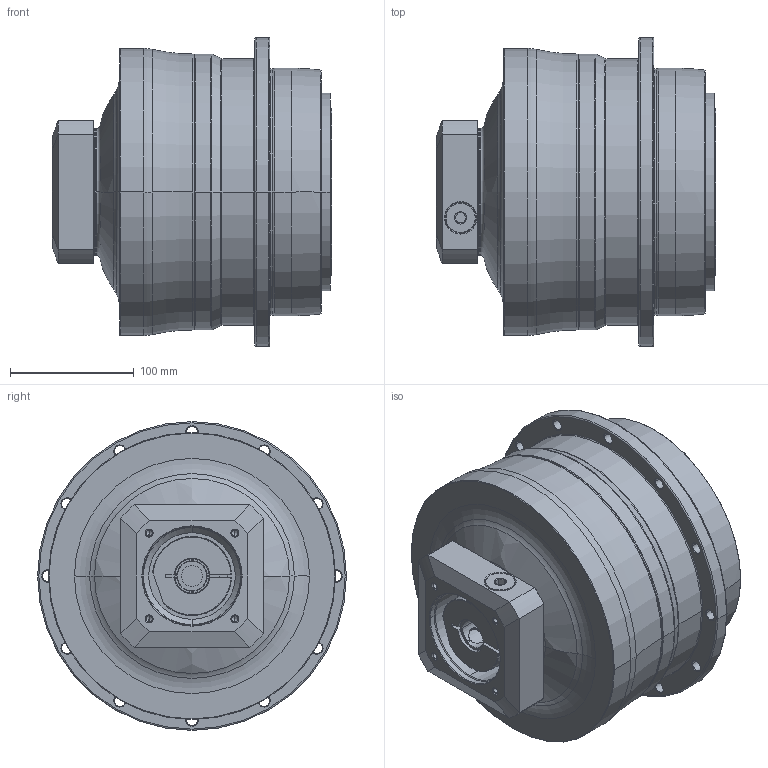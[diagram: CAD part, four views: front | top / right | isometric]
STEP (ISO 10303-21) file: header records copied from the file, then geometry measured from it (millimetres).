
FILE_DESCRIPTION((''),'2;1');
FILE_NAME('AH200_2ST_24-P0409500101_ASM','2016-08-08T',('d01943'),(''),'PRO/ENGINEER BY PARAMETRIC TECHNOLOGY CORPORATION, 2008410','PRO/ENGINEER BY PARAMETRIC TECHNOLOGY CORPORATION, 2008410','');
FILE_SCHEMA(('CONFIG_CONTROL_DESIGN'));
Length unit declared in the file: millimetre
Products named in the file (8): P0278600003; P0359600002; P1317600001; P0409500101; P0503500010; P0912500001; 21711418017; AH200_2ST_24-P0409500101_ASM
Assembly tree (7 placements, depth 2):
  AH200_2ST_24-P0409500101_ASM
    P0278600003
    P0359600002
    P1317600001
    P0409500101
    P0503500010
    P0912500001
    21711418017
Bounding box: 225.5 x 249.5 x 249.5 mm (x, y, z)
Volume: 6892584.9 mm3; surface area: 496122.7 mm2
Topology: 8 solids, 8 shells, 550 faces, 1287 edges, 757 vertices
Faces by surface type: cylinder 206, cone 170, plane 94, torus 64, bspline 16
Entity records: 20415 total; most frequent: CARTESIAN_POINT 7610, DIRECTION 2883, ORIENTED_EDGE 2482, EDGE_CURVE 1241, AXIS2_PLACEMENT_3D 1218, VERTEX_POINT 757, CIRCLE 669, EDGE_LOOP 638
